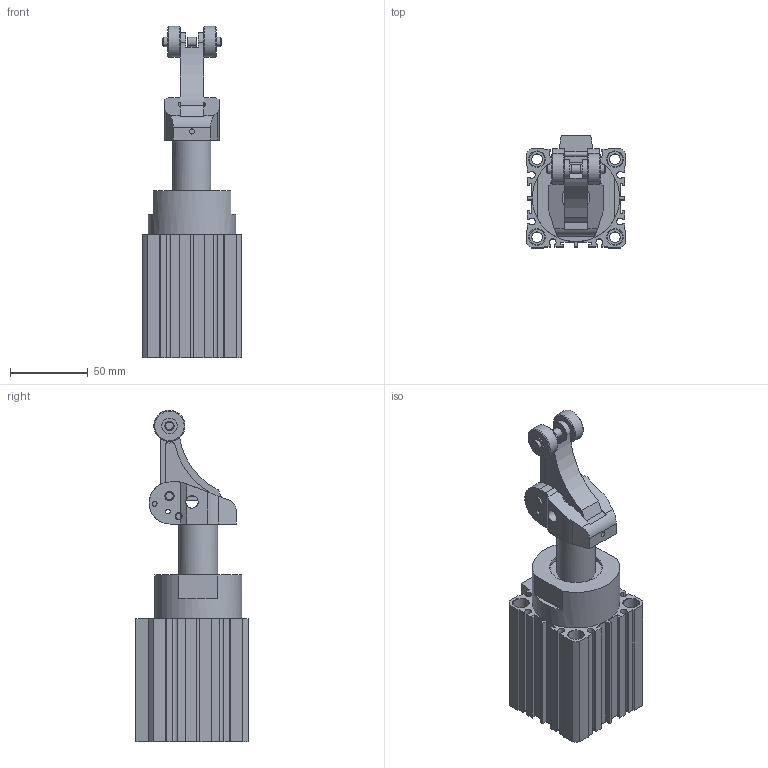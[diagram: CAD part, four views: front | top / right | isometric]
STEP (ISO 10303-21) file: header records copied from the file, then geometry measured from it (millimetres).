
FILE_DESCRIPTION((''),'2;1');
FILE_NAME('I:\3D電子目錄\氣缸\STD\STD50\STD50x25.stp','2007-09-20T14:36:50',('Administrator'),(''),'Autodesk Inventor 11','Autodesk Inventor 11','');
FILE_SCHEMA(('AUTOMOTIVE_DESIGN { 1 0 10303 214 1 1 1 1 }'));
Length unit declared in the file: millimetre
Products named in the file (1): STD50
Bounding box: 64 x 72 x 212.7 mm (x, y, z)
Volume: 408913.1 mm3; surface area: 73709.6 mm2
Topology: 4 solids, 4 shells, 287 faces, 768 edges, 498 vertices
Faces by surface type: plane 169, cylinder 76, bspline 21, cone 20, torus 1
Full cylindrical faces by diameter (mm): 3 x1, 3.1 x4, 3.8 x1, 4 x1, 6 x6, 6.8 x4, 8 x2, 10 x10, 20 x2, 25 x1, 25.2 x1, 29 x1, 34 x1, 35.7 x1, 42 x2, 44.5 x1, 56 x1
Entity records: 9552 total; most frequent: CARTESIAN_POINT 2558, DIRECTION 1422, ORIENTED_EDGE 1386, EDGE_CURVE 693, AXIS2_PLACEMENT_3D 493, VERTEX_POINT 486, VECTOR 436, LINE 436
